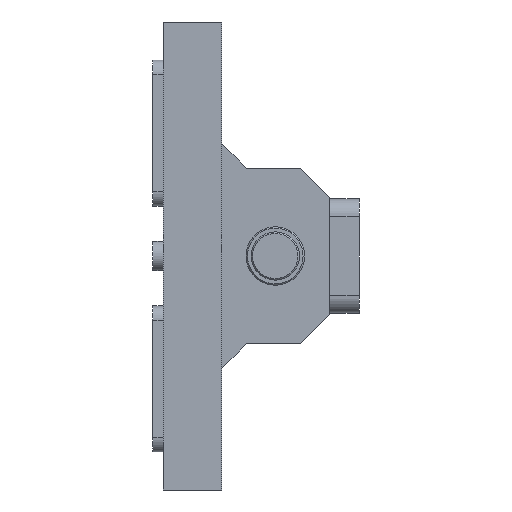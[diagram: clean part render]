
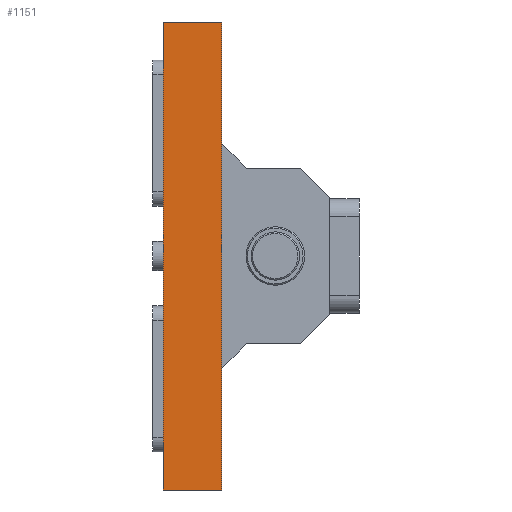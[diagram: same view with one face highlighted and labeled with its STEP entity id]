
A CAD part, left-side view. The second image highlights one B-rep face of the part: STEP entity #1151.
In plain terms, the highlighted planar face has unit normal (-1, 0, 0).
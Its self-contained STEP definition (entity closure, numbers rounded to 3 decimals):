
#53 = ORIENTED_EDGE ( 'NONE', *, *, #2279, .F. ) ;
#76 = AXIS2_PLACEMENT_3D ( 'NONE', #1140, #2733, #668 ) ;
#141 = CARTESIAN_POINT ( 'NONE',  ( -28.5, 77., 80. ) ) ;
#156 = DIRECTION ( 'NONE',  ( 0., -1., 0. ) ) ;
#208 = CARTESIAN_POINT ( 'NONE',  ( -28.5, 77., -80. ) ) ;
#214 = LINE ( 'NONE', #2064, #1604 ) ;
#327 = EDGE_LOOP ( 'NONE', ( #1076, #883, #53, #441 ) ) ;
#330 = VECTOR ( 'NONE', #156, 1000. ) ;
#441 = ORIENTED_EDGE ( 'NONE', *, *, #2260, .F. ) ;
#632 = CARTESIAN_POINT ( 'NONE',  ( -28.5, 77., -80. ) ) ;
#668 = DIRECTION ( 'NONE',  ( 0., 1., 0. ) ) ;
#841 = EDGE_CURVE ( 'NONE', #2152, #2027, #2266, .T. ) ;
#870 = EDGE_CURVE ( 'NONE', #2236, #2152, #214, .T. ) ;
#883 = ORIENTED_EDGE ( 'NONE', *, *, #841, .T. ) ;
#1076 = ORIENTED_EDGE ( 'NONE', *, *, #870, .T. ) ;
#1140 = CARTESIAN_POINT ( 'NONE',  ( -28.5, 77., 80. ) ) ;
#1151 = ADVANCED_FACE ( 'NONE', ( #2493 ), #2276, .F. ) ;
#1273 = LINE ( 'NONE', #2451, #1901 ) ;
#1604 = VECTOR ( 'NONE', #2744, 1000. ) ;
#1761 = CARTESIAN_POINT ( 'NONE',  ( -28.5, 77., 80. ) ) ;
#1818 = DIRECTION ( 'NONE',  ( 0., -1., 0. ) ) ;
#1901 = VECTOR ( 'NONE', #1961, 1000. ) ;
#1961 = DIRECTION ( 'NONE',  ( 0., 0., -1. ) ) ;
#1983 = CARTESIAN_POINT ( 'NONE',  ( -28.5, 57., 80. ) ) ;
#1987 = VECTOR ( 'NONE', #1818, 1000. ) ;
#2027 = VERTEX_POINT ( 'NONE', #2622 ) ;
#2064 = CARTESIAN_POINT ( 'NONE',  ( -28.5, 77., 80. ) ) ;
#2152 = VERTEX_POINT ( 'NONE', #208 ) ;
#2227 = VERTEX_POINT ( 'NONE', #1983 ) ;
#2236 = VERTEX_POINT ( 'NONE', #141 ) ;
#2260 = EDGE_CURVE ( 'NONE', #2236, #2227, #2672, .T. ) ;
#2266 = LINE ( 'NONE', #632, #1987 ) ;
#2276 = PLANE ( 'NONE',  #76 ) ;
#2279 = EDGE_CURVE ( 'NONE', #2227, #2027, #1273, .T. ) ;
#2451 = CARTESIAN_POINT ( 'NONE',  ( -28.5, 57., 80. ) ) ;
#2493 = FACE_OUTER_BOUND ( 'NONE', #327, .T. ) ;
#2622 = CARTESIAN_POINT ( 'NONE',  ( -28.5, 57., -80. ) ) ;
#2672 = LINE ( 'NONE', #1761, #330 ) ;
#2733 = DIRECTION ( 'NONE',  ( 1., 0., 0. ) ) ;
#2744 = DIRECTION ( 'NONE',  ( 0., 0., -1. ) ) ;
